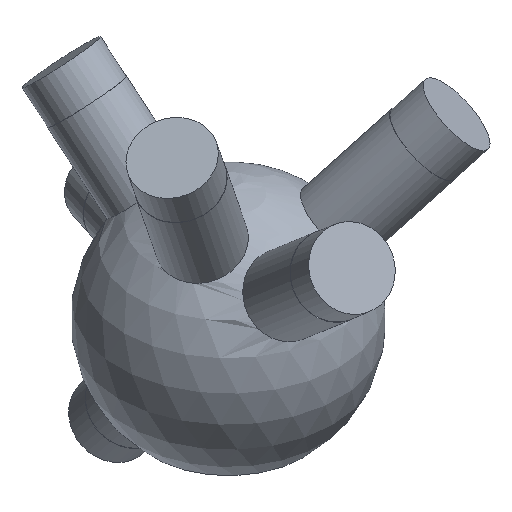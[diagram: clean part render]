
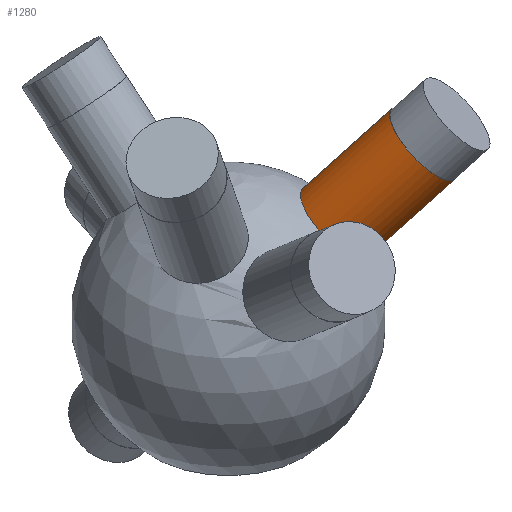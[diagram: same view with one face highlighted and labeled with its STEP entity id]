
A CAD part, isometric view. The second image highlights one B-rep face of the part: STEP entity #1280.
In plain terms, the highlighted cylindrical face has radius 6 mm (diameter 12 mm), a full revolution.
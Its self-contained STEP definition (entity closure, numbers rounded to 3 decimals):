
#37 = SPHERICAL_SURFACE('',#38,20.);
#38 = AXIS2_PLACEMENT_3D('',#39,#40,#41);
#39 = CARTESIAN_POINT('',(0.,0.,0.));
#40 = DIRECTION('',(0.,0.,1.));
#41 = DIRECTION('',(1.,0.,-0.));
#786 = EDGE_CURVE('',#787,#787,#789,.T.);
#787 = VERTEX_POINT('',#788);
#788 = CARTESIAN_POINT('',(15.39,-8.242,9.757
    ));
#789 = SURFACE_CURVE('',#790,(#795,#864),.PCURVE_S1.);
#790 = CIRCLE('',#791,6.);
#791 = AXIS2_PLACEMENT_3D('',#792,#793,#794);
#792 = CARTESIAN_POINT('',(10.688,-8.242,
    13.484));
#793 = DIRECTION('',(0.56,-0.432,0.707));
#794 = DIRECTION('',(-0.784,0.,0.621)
  );
#795 = PCURVE('',#37,#796);
#796 = DEFINITIONAL_REPRESENTATION('',(#797),#863);
#797 = B_SPLINE_CURVE_WITH_KNOTS('',8,(#798,#799,#800,#801,#802,#803,
    #804,#805,#806,#807,#808,#809,#810,#811,#812,#813,#814,#815,#816,
    #817,#818,#819,#820,#821,#822,#823,#824,#825,#826,#827,#828,#829,
    #830,#831,#832,#833,#834,#835,#836,#837,#838,#839,#840,#841,#842,
    #843,#844,#845,#846,#847,#848,#849,#850,#851,#852,#853,#854,#855,
    #856,#857,#858,#859,#860,#861,#862),.UNSPECIFIED.,.T.,.F.,(9,7,7,7,7
    ,7,7,7,7,9),(3.142,3.927,4.614,
    5.216,5.742,6.202,6.605,
    7.31,8.367,9.425),.UNSPECIFIED.);
#798 = CARTESIAN_POINT('',(5.792,0.51));
#799 = CARTESIAN_POINT('',(5.823,0.521));
#800 = CARTESIAN_POINT('',(5.853,0.535));
#801 = CARTESIAN_POINT('',(5.882,0.551));
#802 = CARTESIAN_POINT('',(5.909,0.569));
#803 = CARTESIAN_POINT('',(5.935,0.59));
#804 = CARTESIAN_POINT('',(5.959,0.612));
#805 = CARTESIAN_POINT('',(5.981,0.636));
#806 = CARTESIAN_POINT('',(6.016,0.684));
#807 = CARTESIAN_POINT('',(6.031,0.707));
#808 = CARTESIAN_POINT('',(6.043,0.731));
#809 = CARTESIAN_POINT('',(6.054,0.756));
#810 = CARTESIAN_POINT('',(6.061,0.781));
#811 = CARTESIAN_POINT('',(6.065,0.807));
#812 = CARTESIAN_POINT('',(6.066,0.833));
#813 = CARTESIAN_POINT('',(6.06,0.881));
#814 = CARTESIAN_POINT('',(6.054,0.904));
#815 = CARTESIAN_POINT('',(6.045,0.926));
#816 = CARTESIAN_POINT('',(6.033,0.947));
#817 = CARTESIAN_POINT('',(6.016,0.968));
#818 = CARTESIAN_POINT('',(5.996,0.987));
#819 = CARTESIAN_POINT('',(5.971,1.005));
#820 = CARTESIAN_POINT('',(5.915,1.036));
#821 = CARTESIAN_POINT('',(5.886,1.049));
#822 = CARTESIAN_POINT('',(5.853,1.061));
#823 = CARTESIAN_POINT('',(5.818,1.071));
#824 = CARTESIAN_POINT('',(5.779,1.079));
#825 = CARTESIAN_POINT('',(5.738,1.084));
#826 = CARTESIAN_POINT('',(5.696,1.088));
#827 = CARTESIAN_POINT('',(5.617,1.09));
#828 = CARTESIAN_POINT('',(5.579,1.09));
#829 = CARTESIAN_POINT('',(5.542,1.087));
#830 = CARTESIAN_POINT('',(5.505,1.083));
#831 = CARTESIAN_POINT('',(5.471,1.078));
#832 = CARTESIAN_POINT('',(5.438,1.07));
#833 = CARTESIAN_POINT('',(5.407,1.062));
#834 = CARTESIAN_POINT('',(5.354,1.043));
#835 = CARTESIAN_POINT('',(5.331,1.033));
#836 = CARTESIAN_POINT('',(5.31,1.022));
#837 = CARTESIAN_POINT('',(5.291,1.011));
#838 = CARTESIAN_POINT('',(5.274,0.999));
#839 = CARTESIAN_POINT('',(5.258,0.986));
#840 = CARTESIAN_POINT('',(5.245,0.973));
#841 = CARTESIAN_POINT('',(5.214,0.936));
#842 = CARTESIAN_POINT('',(5.2,0.91));
#843 = CARTESIAN_POINT('',(5.19,0.884));
#844 = CARTESIAN_POINT('',(5.186,0.858));
#845 = CARTESIAN_POINT('',(5.185,0.831));
#846 = CARTESIAN_POINT('',(5.188,0.805));
#847 = CARTESIAN_POINT('',(5.194,0.779));
#848 = CARTESIAN_POINT('',(5.217,0.715));
#849 = CARTESIAN_POINT('',(5.237,0.677));
#850 = CARTESIAN_POINT('',(5.262,0.642));
#851 = CARTESIAN_POINT('',(5.292,0.61));
#852 = CARTESIAN_POINT('',(5.325,0.581));
#853 = CARTESIAN_POINT('',(5.362,0.555));
#854 = CARTESIAN_POINT('',(5.401,0.534));
#855 = CARTESIAN_POINT('',(5.484,0.5));
#856 = CARTESIAN_POINT('',(5.527,0.487));
#857 = CARTESIAN_POINT('',(5.571,0.479));
#858 = CARTESIAN_POINT('',(5.616,0.476));
#859 = CARTESIAN_POINT('',(5.661,0.477));
#860 = CARTESIAN_POINT('',(5.706,0.483));
#861 = CARTESIAN_POINT('',(5.75,0.494));
#862 = CARTESIAN_POINT('',(5.792,0.51));
#863 = ( GEOMETRIC_REPRESENTATION_CONTEXT(2) 
PARAMETRIC_REPRESENTATION_CONTEXT() REPRESENTATION_CONTEXT('2D SPACE',''
  ) );
#864 = PCURVE('',#865,#870);
#865 = CYLINDRICAL_SURFACE('',#866,6.);
#866 = AXIS2_PLACEMENT_3D('',#867,#868,#869);
#867 = CARTESIAN_POINT('',(0.,0.,0.));
#868 = DIRECTION('',(0.56,-0.432,0.707));
#869 = DIRECTION('',(0.784,0.,-0.621)
  );
#870 = DEFINITIONAL_REPRESENTATION('',(#871),#875);
#871 = LINE('',#872,#873);
#872 = CARTESIAN_POINT('',(-3.142,19.079));
#873 = VECTOR('',#874,1.);
#874 = DIRECTION('',(1.,0.));
#875 = ( GEOMETRIC_REPRESENTATION_CONTEXT(2) 
PARAMETRIC_REPRESENTATION_CONTEXT() REPRESENTATION_CONTEXT('2D SPACE',''
  ) );
#1280 = ADVANCED_FACE('',(#1281),#865,.T.);
#1281 = FACE_BOUND('',#1282,.T.);
#1282 = EDGE_LOOP('',(#1283,#1306,#1333,#1334));
#1283 = ORIENTED_EDGE('',*,*,#1284,.T.);
#1284 = EDGE_CURVE('',#787,#1285,#1287,.T.);
#1285 = VERTEX_POINT('',#1286);
#1286 = CARTESIAN_POINT('',(24.403,-15.192,
    21.127));
#1287 = SEAM_CURVE('',#1288,(#1292,#1299),.PCURVE_S1.);
#1288 = LINE('',#1289,#1290);
#1289 = CARTESIAN_POINT('',(4.702,0.,
    -3.727));
#1290 = VECTOR('',#1291,1.);
#1291 = DIRECTION('',(0.56,-0.432,0.707));
#1292 = PCURVE('',#865,#1293);
#1293 = DEFINITIONAL_REPRESENTATION('',(#1294),#1298);
#1294 = LINE('',#1295,#1296);
#1295 = CARTESIAN_POINT('',(6.283,-0.));
#1296 = VECTOR('',#1297,1.);
#1297 = DIRECTION('',(0.,1.));
#1298 = ( GEOMETRIC_REPRESENTATION_CONTEXT(2) 
PARAMETRIC_REPRESENTATION_CONTEXT() REPRESENTATION_CONTEXT('2D SPACE',''
  ) );
#1299 = PCURVE('',#865,#1300);
#1300 = DEFINITIONAL_REPRESENTATION('',(#1301),#1305);
#1301 = LINE('',#1302,#1303);
#1302 = CARTESIAN_POINT('',(0.,-0.));
#1303 = VECTOR('',#1304,1.);
#1304 = DIRECTION('',(0.,1.));
#1305 = ( GEOMETRIC_REPRESENTATION_CONTEXT(2) 
PARAMETRIC_REPRESENTATION_CONTEXT() REPRESENTATION_CONTEXT('2D SPACE',''
  ) );
#1306 = ORIENTED_EDGE('',*,*,#1307,.F.);
#1307 = EDGE_CURVE('',#1285,#1285,#1308,.T.);
#1308 = SURFACE_CURVE('',#1309,(#1314,#1321),.PCURVE_S1.);
#1309 = CIRCLE('',#1310,6.);
#1310 = AXIS2_PLACEMENT_3D('',#1311,#1312,#1313);
#1311 = CARTESIAN_POINT('',(19.701,-15.192,
    24.854));
#1312 = DIRECTION('',(0.56,-0.432,0.707));
#1313 = DIRECTION('',(0.784,0.,-0.621)
  );
#1314 = PCURVE('',#865,#1315);
#1315 = DEFINITIONAL_REPRESENTATION('',(#1316),#1320);
#1316 = LINE('',#1317,#1318);
#1317 = CARTESIAN_POINT('',(0.,35.166));
#1318 = VECTOR('',#1319,1.);
#1319 = DIRECTION('',(1.,0.));
#1320 = ( GEOMETRIC_REPRESENTATION_CONTEXT(2) 
PARAMETRIC_REPRESENTATION_CONTEXT() REPRESENTATION_CONTEXT('2D SPACE',''
  ) );
#1321 = PCURVE('',#1322,#1327);
#1322 = PLANE('',#1323);
#1323 = AXIS2_PLACEMENT_3D('',#1324,#1325,#1326);
#1324 = CARTESIAN_POINT('',(19.701,-15.192,
    24.854));
#1325 = DIRECTION('',(0.56,-0.432,0.707));
#1326 = DIRECTION('',(0.784,0.,-0.621)
  );
#1327 = DEFINITIONAL_REPRESENTATION('',(#1328),#1332);
#1328 = CIRCLE('',#1329,6.);
#1329 = AXIS2_PLACEMENT_2D('',#1330,#1331);
#1330 = CARTESIAN_POINT('',(0.,0.));
#1331 = DIRECTION('',(1.,0.));
#1332 = ( GEOMETRIC_REPRESENTATION_CONTEXT(2) 
PARAMETRIC_REPRESENTATION_CONTEXT() REPRESENTATION_CONTEXT('2D SPACE',''
  ) );
#1333 = ORIENTED_EDGE('',*,*,#1284,.F.);
#1334 = ORIENTED_EDGE('',*,*,#786,.T.);
